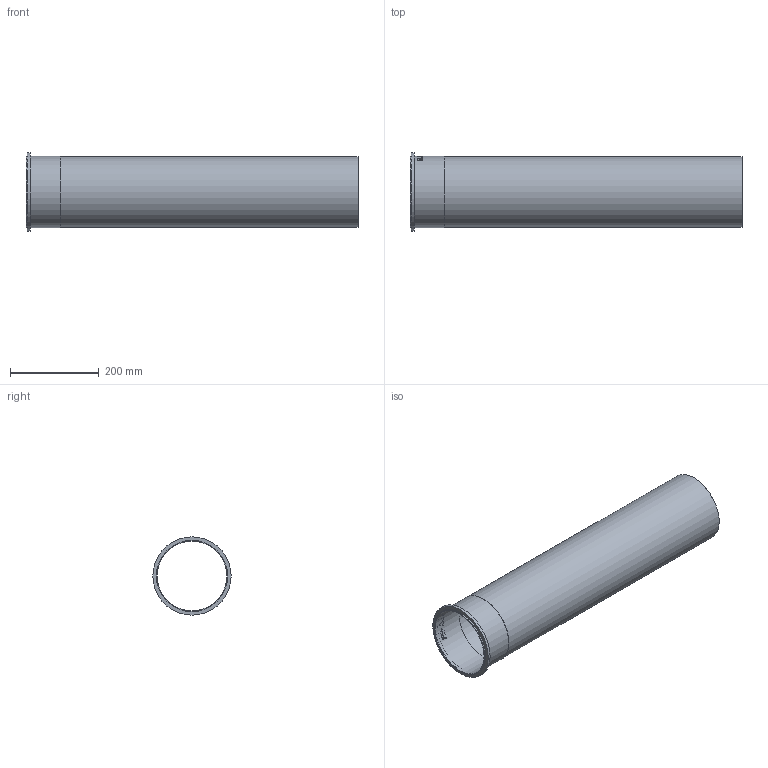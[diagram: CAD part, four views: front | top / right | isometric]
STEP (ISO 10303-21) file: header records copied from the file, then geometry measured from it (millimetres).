
FILE_DESCRIPTION((''),'2;1');
FILE_NAME('I:\WATTS\3D_CAD\3D_CAD_Models\Blucher_Drains\P_StraightPipe\WebsiteFiles\3D\STEP\P6-2.5-316.stp','2009-12-02T16:05:27',('menesek'),(''),'Autodesk Inventor 2010','Autodesk Inventor 2010','');
FILE_SCHEMA(('AUTOMOTIVE_DESIGN { 1 0 10303 214 1 1 1 1 }'));
Length unit declared in the file: inch
Products named in the file (1): P6-2.5-316
Bounding box: 750 x 177.04 x 177.04 mm (x, y, z)
Volume: 521462.1 mm3; surface area: 757981.7 mm2
Topology: 1 solids, 1 shells, 109 faces, 285 edges, 190 vertices
Faces by surface type: plane 59, bspline 34, cylinder 16
Full cylindrical faces by diameter (mm): 157.226 x1, 159.766 x1, 160.782 x2, 177.038 x1
Entity records: 13936 total; most frequent: CARTESIAN_POINT 11558, ORIENTED_EDGE 548, DIRECTION 356, EDGE_CURVE 274, VERTEX_POINT 186, EDGE_LOOP 128, AXIS2_PLACEMENT_3D 120, VECTOR 116
